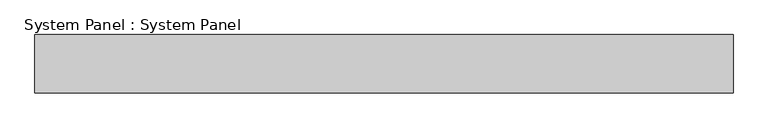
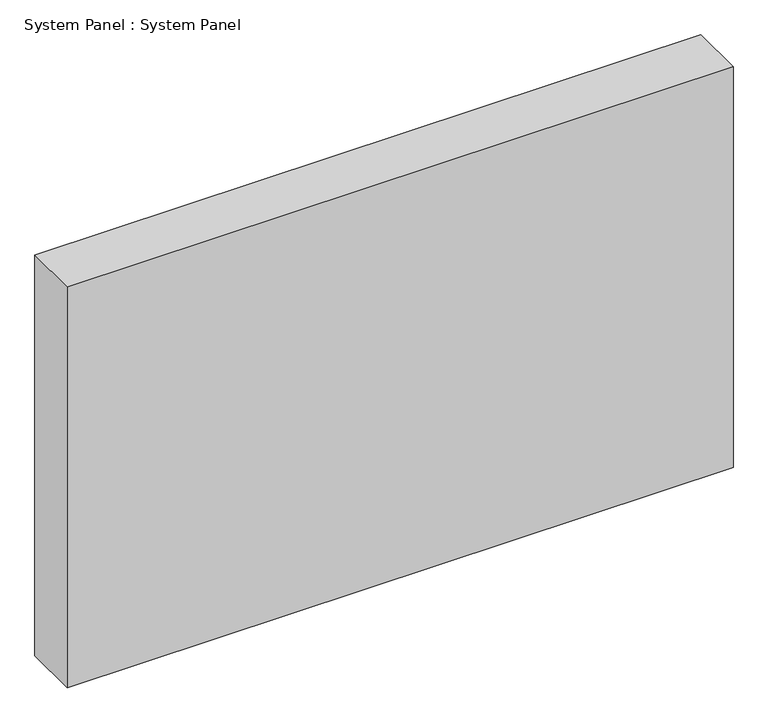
"""IFC4 building model written with IfcOpenShell, lengths in millimetres: plate geometry, System Panel : System Panel."""

from ifc_helpers import new_model, si_unit, origin, origin_with_axes, place, context, project, spatial, polyline, outline, extrude, source, transform, mapped, element, save


def system_panel_system_panel_081f42b0(model_context):
    return source(origin(), model_context, "Body", "SweptSolid", [
        extrude(outline(polyline([(608.5596948, -50.8), (-608.5596948, -50.8), (-608.5596948, 50.8), (608.5596948, 50.8), (608.5596948, -50.8)])), origin_with_axes(), (0.0, 0.0, 1.0), 774.7),
    ])


if __name__ == "__main__":
    model = new_model("IFC4")
    model_context = context("Model", 3, world=origin())
    ifc_project = project(units=[si_unit("LENGTHUNIT", "METRE", prefix="MILLI")], contexts=[model_context])
    site = spatial("IfcSite", under=ifc_project)
    building = spatial("IfcBuilding", under=site)
    placement = place(None, origin())
    system_panel_system_panel_shape = system_panel_system_panel_081f42b0(model_context)
    element("IfcPlate", 1, ObjectType="System Panel : System Panel", at=placement, inside=building, context=model_context, shape_type="MappedRepresentation", body=[
        mapped(system_panel_system_panel_shape, transform((0.0, 0.0, 0.0), x_axis=(1.0, 0.0, 0.0), y_axis=(0.0, 1.0, 0.0), z_axis=(0.0, 0.0, 1.0))),
    ])
    save(model, "model.ifc")
